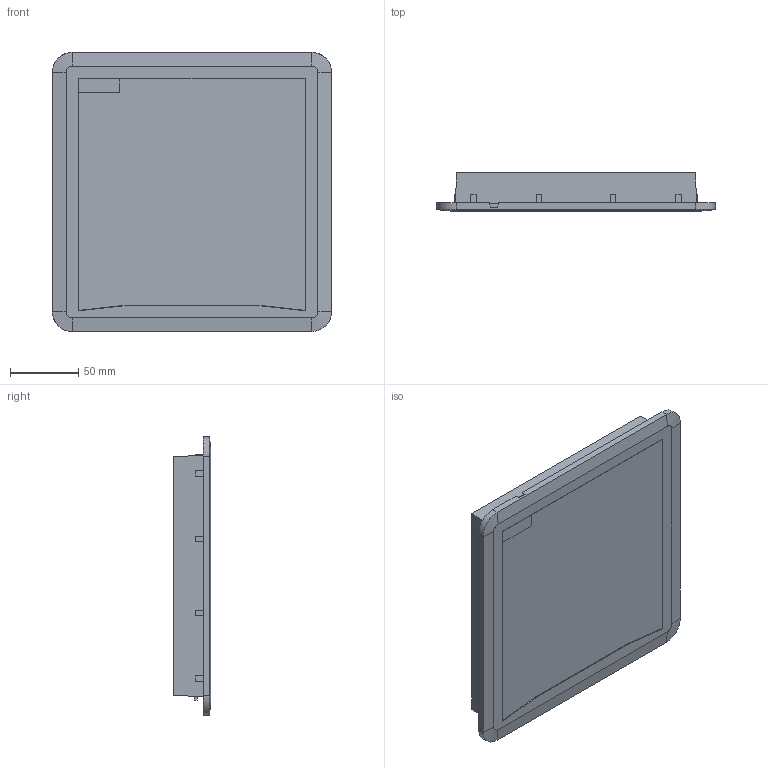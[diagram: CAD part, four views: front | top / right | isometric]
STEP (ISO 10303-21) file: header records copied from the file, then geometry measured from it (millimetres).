
FILE_DESCRIPTION(/* description */ (''),/* implementation_level */ '2;1');
FILE_NAME(/* name */ 'FPF13K~1',/* time_stamp */ '2019-09-09T12:25:41+02:00',/* author */ (''),/* organization */ (''),/* preprocessor_version */ 'ST-DEVELOPER v14',/* originating_system */ '',/* authorisation */ '');
FILE_SCHEMA (('CONFIG_CONTROL_DESIGN'));
Length unit declared in the file: millimetre
Products named in the file (1): Document
Bounding box: 204 x 27.5 x 204 mm (x, y, z)
Volume: 889660.6 mm3; surface area: 107153.3 mm2
Topology: 1 solids, 1 shells, 127 faces, 327 edges, 212 vertices
Faces by surface type: plane 109, bspline 18
Entity records: 3813 total; most frequent: CARTESIAN_POINT 1511, ORIENTED_EDGE 654, EDGE_CURVE 327, B_SPLINE_CURVE_WITH_KNOTS 289, VERTEX_POINT 212, EDGE_LOOP 137, ADVANCED_FACE 127, FACE_OUTER_BOUND 127
